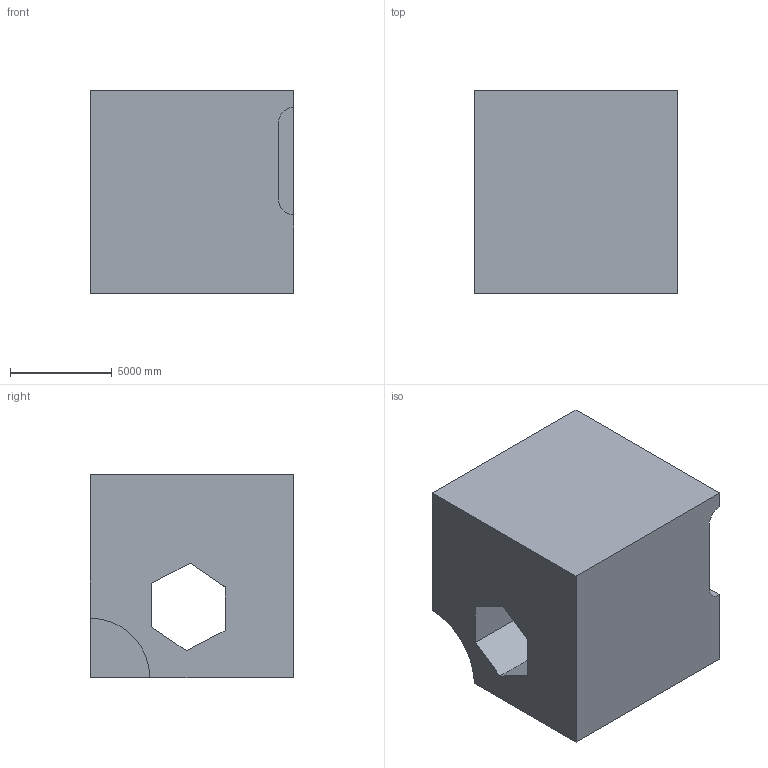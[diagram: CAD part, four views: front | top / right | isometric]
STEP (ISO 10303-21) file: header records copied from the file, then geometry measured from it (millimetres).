
FILE_DESCRIPTION (( 'STEP AP203' ), '1' );
FILE_NAME ('212.STEP', '2022-08-04T14:19:15', ( 'user' ), ( '' ), 'SwSTEP 2.0', 'SolidWorks 2021', '' );
FILE_SCHEMA (( 'CONFIG_CONTROL_DESIGN' ));
Length unit declared in the file: centimetre
Products named in the file (1): 212
Bounding box: 10000 x 10000 x 10000 mm (x, y, z)
Volume: 828541447710.9 mm3; surface area: 698989028.8 mm2
Topology: 1 solids, 1 shells, 19 faces, 54 edges, 36 vertices
Faces by surface type: plane 15, cylinder 4
Entity records: 697 total; most frequent: CARTESIAN_POINT 113, ORIENTED_EDGE 108, DIRECTION 101, EDGE_CURVE 54, LINE 45, VECTOR 45, VERTEX_POINT 36, AXIS2_PLACEMENT_3D 28
